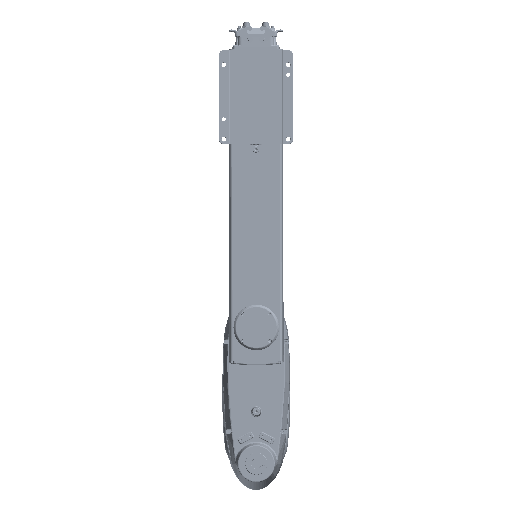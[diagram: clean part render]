
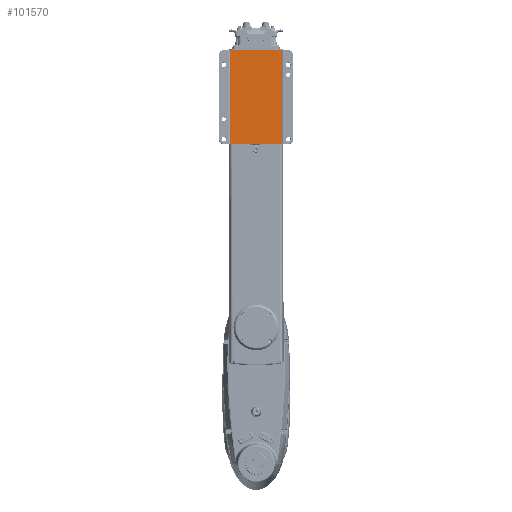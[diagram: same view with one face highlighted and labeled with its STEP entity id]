
A CAD part, front view. The second image highlights one B-rep face of the part: STEP entity #101570.
In plain terms, the highlighted planar face has unit normal (0, -1, 0).
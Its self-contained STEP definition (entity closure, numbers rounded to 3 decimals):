
#10105 = CARTESIAN_POINT ( 'NONE',  ( -52., -12., 40. ) ) ;
#14565 = AXIS2_PLACEMENT_3D ( 'NONE', #266252, #139553, #247376 ) ;
#17228 = CARTESIAN_POINT ( 'NONE',  ( -52., -12., -54.5 ) ) ;
#27886 = ORIENTED_EDGE ( 'NONE', *, *, #188523, .F. ) ;
#53152 = CARTESIAN_POINT ( 'NONE',  ( 52., -12., 134.5 ) ) ;
#63541 = CARTESIAN_POINT ( 'NONE',  ( -52., -12., 134.5 ) ) ;
#64663 = VECTOR ( 'NONE', #227119, 1000. ) ;
#66322 = VERTEX_POINT ( 'NONE', #53152 ) ;
#68122 = DIRECTION ( 'NONE',  ( 0., 0., 1. ) ) ;
#82420 = VERTEX_POINT ( 'NONE', #63541 ) ;
#96316 = EDGE_CURVE ( 'NONE', #255506, #122043, #144832, .T. ) ;
#98060 = DIRECTION ( 'NONE',  ( -1., 0., 0. ) ) ;
#101570 = ADVANCED_FACE ( 'NONE', ( #114065 ), #174755, .F. ) ;
#104447 = CARTESIAN_POINT ( 'NONE',  ( 0., -12., -54.5 ) ) ;
#114065 = FACE_OUTER_BOUND ( 'NONE', #114425, .T. ) ;
#114425 = EDGE_LOOP ( 'NONE', ( #121315, #27886, #241863, #233644 ) ) ;
#121315 = ORIENTED_EDGE ( 'NONE', *, *, #96316, .T. ) ;
#122043 = VERTEX_POINT ( 'NONE', #224118 ) ;
#139553 = DIRECTION ( 'NONE',  ( 0., 1., 0. ) ) ;
#144832 = LINE ( 'NONE', #104447, #64663 ) ;
#150918 = VECTOR ( 'NONE', #68122, 1000. ) ;
#156676 = VECTOR ( 'NONE', #177642, 1000. ) ;
#160007 = CARTESIAN_POINT ( 'NONE',  ( 0., -12., 134.5 ) ) ;
#174755 = PLANE ( 'NONE',  #14565 ) ;
#177642 = DIRECTION ( 'NONE',  ( 0., 0., -1. ) ) ;
#181639 = LINE ( 'NONE', #261206, #156676 ) ;
#188523 = EDGE_CURVE ( 'NONE', #66322, #122043, #181639, .T. ) ;
#195040 = LINE ( 'NONE', #10105, #150918 ) ;
#220937 = VECTOR ( 'NONE', #98060, 1000. ) ;
#224118 = CARTESIAN_POINT ( 'NONE',  ( 52., -12., -54.5 ) ) ;
#224695 = LINE ( 'NONE', #160007, #220937 ) ;
#227119 = DIRECTION ( 'NONE',  ( 1., 0., 0. ) ) ;
#233644 = ORIENTED_EDGE ( 'NONE', *, *, #244734, .F. ) ;
#241863 = ORIENTED_EDGE ( 'NONE', *, *, #261604, .T. ) ;
#244734 = EDGE_CURVE ( 'NONE', #255506, #82420, #195040, .T. ) ;
#247376 = DIRECTION ( 'NONE',  ( 0., 0., 1. ) ) ;
#255506 = VERTEX_POINT ( 'NONE', #17228 ) ;
#261206 = CARTESIAN_POINT ( 'NONE',  ( 52., -12., 40. ) ) ;
#261604 = EDGE_CURVE ( 'NONE', #66322, #82420, #224695, .T. ) ;
#266252 = CARTESIAN_POINT ( 'NONE',  ( -52., -12., -54.5 ) ) ;
